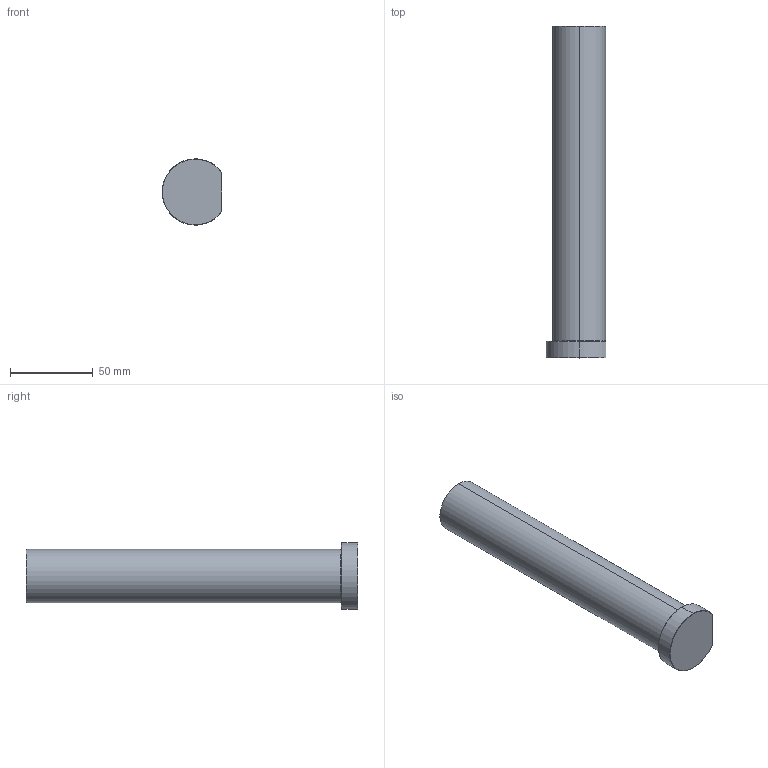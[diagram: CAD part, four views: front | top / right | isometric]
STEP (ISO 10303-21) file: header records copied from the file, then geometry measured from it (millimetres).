
FILE_DESCRIPTION (( 'STEP AP203' ), '1' );
FILE_NAME ('EPD32L200-K.step', '2022-04-08T13:33:39', ( 'Microsoft Corporation' ), ( 'MS' ), 'SwSTEP 2.0', 'SolidWorks 2019', '' );
FILE_SCHEMA (( 'CONFIG_CONTROL_DESIGN' ));
Length unit declared in the file: millimetre
Products named in the file (1): EPD32L200-K
Bounding box: 36 x 200 x 40 mm (x, y, z)
Volume: 164717.3 mm3; surface area: 22686.5 mm2
Topology: 1 solids, 1 shells, 18 faces, 41 edges, 25 vertices
Faces by surface type: cone 6, cylinder 5, plane 4, torus 3
Entity records: 600 total; most frequent: CARTESIAN_POINT 109, DIRECTION 95, ORIENTED_EDGE 82, EDGE_CURVE 41, AXIS2_PLACEMENT_3D 41, VERTEX_POINT 25, CIRCLE 22, ADVANCED_FACE 18
